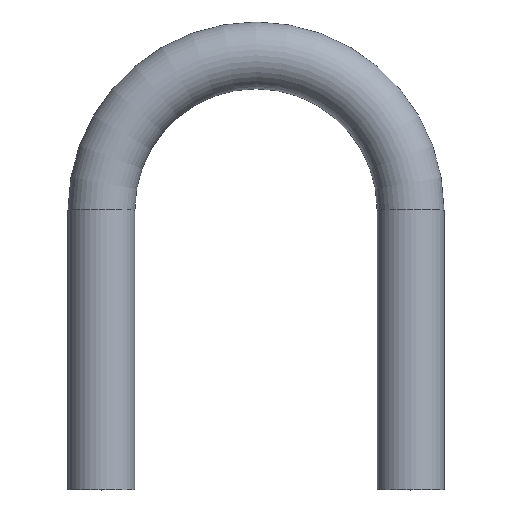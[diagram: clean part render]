
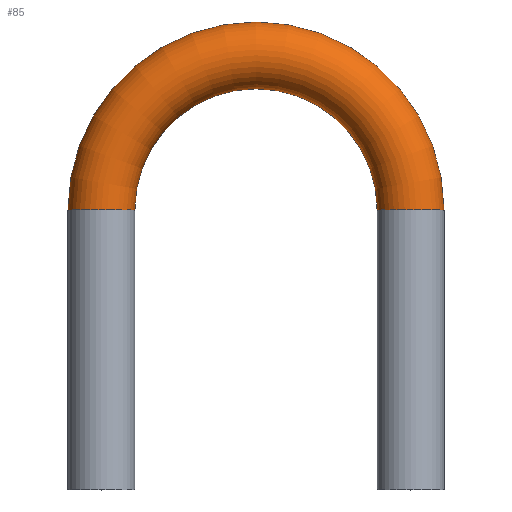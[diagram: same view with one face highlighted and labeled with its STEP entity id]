
A CAD part, top view. The second image highlights one B-rep face of the part: STEP entity #85.
In plain terms, the highlighted toroidal (fillet/blend) face has major radius 18.5 mm and minor radius 4 mm.
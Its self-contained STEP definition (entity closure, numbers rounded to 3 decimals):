
#17=TOROIDAL_SURFACE('',#114,18.5,4.);
#19=FACE_OUTER_BOUND('',#24,.T.);
#24=EDGE_LOOP('',(#66,#67,#68,#69,#70,#71));
#34=CIRCLE('',#112,4.);
#35=CIRCLE('',#113,4.);
#36=CIRCLE('',#115,14.5);
#37=CIRCLE('',#116,4.);
#38=CIRCLE('',#117,4.);
#43=VERTEX_POINT('',#161);
#44=VERTEX_POINT('',#163);
#45=VERTEX_POINT('',#167);
#46=VERTEX_POINT('',#169);
#52=EDGE_CURVE('',#43,#44,#34,.T.);
#53=EDGE_CURVE('',#44,#43,#35,.T.);
#54=EDGE_CURVE('',#43,#45,#36,.T.);
#55=EDGE_CURVE('',#45,#46,#37,.T.);
#56=EDGE_CURVE('',#46,#45,#38,.T.);
#66=ORIENTED_EDGE('',*,*,#53,.F.);
#67=ORIENTED_EDGE('',*,*,#52,.F.);
#68=ORIENTED_EDGE('',*,*,#54,.T.);
#69=ORIENTED_EDGE('',*,*,#55,.T.);
#70=ORIENTED_EDGE('',*,*,#56,.T.);
#71=ORIENTED_EDGE('',*,*,#54,.F.);
#85=ADVANCED_FACE('',(#19),#17,.T.);
#112=AXIS2_PLACEMENT_3D('',#164,#132,#133);
#113=AXIS2_PLACEMENT_3D('',#165,#134,#135);
#114=AXIS2_PLACEMENT_3D('',#166,#136,#137);
#115=AXIS2_PLACEMENT_3D('',#168,#138,#139);
#116=AXIS2_PLACEMENT_3D('',#170,#140,#141);
#117=AXIS2_PLACEMENT_3D('',#171,#142,#143);
#132=DIRECTION('center_axis',(0.,-1.,0.));
#133=DIRECTION('ref_axis',(-1.,0.,0.));
#134=DIRECTION('center_axis',(0.,-1.,0.));
#135=DIRECTION('ref_axis',(-1.,0.,0.));
#136=DIRECTION('center_axis',(0.,0.,1.));
#137=DIRECTION('ref_axis',(1.,0.,0.));
#138=DIRECTION('center_axis',(0.,0.,-1.));
#139=DIRECTION('ref_axis',(1.,0.,0.));
#140=DIRECTION('center_axis',(0.,1.,0.));
#141=DIRECTION('ref_axis',(1.,0.,0.));
#142=DIRECTION('center_axis',(0.,1.,0.));
#143=DIRECTION('ref_axis',(1.,0.,0.));
#161=CARTESIAN_POINT('',(-14.5,0.,0.));
#163=CARTESIAN_POINT('',(-22.5,0.,0.));
#164=CARTESIAN_POINT('Origin',(-18.5,0.,0.));
#165=CARTESIAN_POINT('Origin',(-18.5,0.,0.));
#166=CARTESIAN_POINT('Origin',(0.,0.,0.));
#167=CARTESIAN_POINT('',(14.5,0.,0.));
#168=CARTESIAN_POINT('Origin',(0.,0.,0.));
#169=CARTESIAN_POINT('',(22.5,0.,0.));
#170=CARTESIAN_POINT('Origin',(18.5,0.,0.));
#171=CARTESIAN_POINT('Origin',(18.5,0.,0.));
